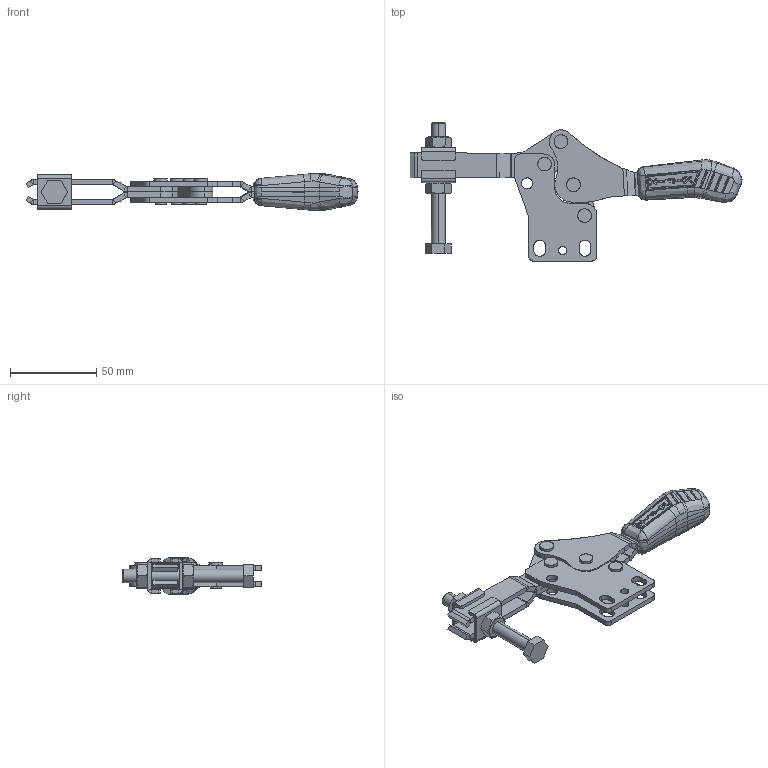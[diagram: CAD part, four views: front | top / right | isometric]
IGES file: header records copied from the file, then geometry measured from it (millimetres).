
Start section: SolidWorks IGES file using analytic representation for surfaces
Global section: file name: C:\Projetos\Grampos\KF-722\KF-722 R\KF-722 R.IGS; native system: SolidWorks 2018; preprocessor: SolidWorks 2018; author: Ricardo; date: 180306.081054; units: millimetre
Bounding box: 192 x 79.9 x 21.21 mm (x, y, z)
Surface area: 41412.5 mm2 (no closed solid volume)
Topology: 0 solids, 0 shells, 992 faces, 9777 edges, 9725 vertices
Faces by surface type: bspline 590, revolution 402
